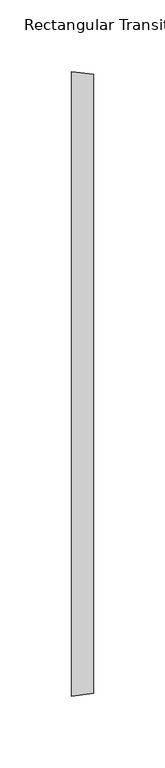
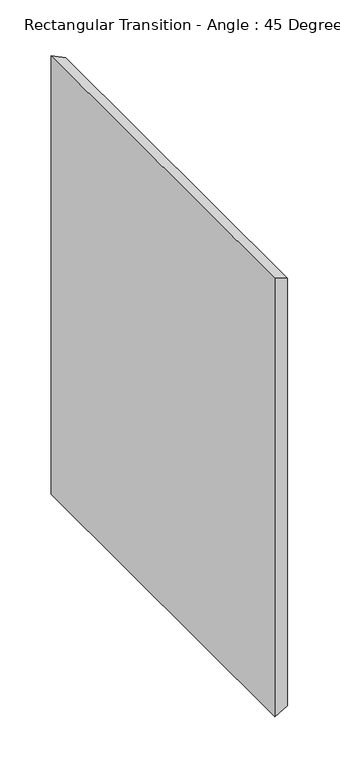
"""IFC4 building model written with IfcOpenShell, lengths in millimetres: duct fitting geometry, Rectangular Transition - Angle : 45 Degree."""

from ifc_helpers import new_model, si_unit, origin, place, context, project, spatial, faceted_brep, source, transform, mapped, element, save


def rectangular_transition_angle_45_degree_bff0837c(model_context):
    return source(origin(), model_context, "Body", "Brep", [
        faceted_brep([(15.3302561, -215.9, 254.0), (15.3302561, -215.9, -254.0), (15.3302561, 215.9, -254.0), (15.3302561, 215.9, 254.0), (0.0, -217.7851563, 260.35), (0.0, 217.7851562, 260.35), (0.0, 217.7851562, -260.35), (0.0, -217.7851563, -260.35)], [[[0, 1, 2, 3]], [[4, 5, 6, 7]], [[4, 7, 1, 0]], [[7, 6, 2, 1]], [[6, 5, 3, 2]], [[5, 4, 0, 3]]]),
    ])


if __name__ == "__main__":
    model = new_model("IFC4")
    model_context = context("Model", 3, world=origin())
    ifc_project = project(units=[si_unit("LENGTHUNIT", "METRE", prefix="MILLI")], contexts=[model_context])
    site = spatial("IfcSite", under=ifc_project)
    building = spatial("IfcBuilding", under=site)
    placement = place(None, origin())
    rectangular_transition_angle_45_degree_shape = rectangular_transition_angle_45_degree_bff0837c(model_context)
    element("IfcDuctFitting", 1, ObjectType="Rectangular Transition - Angle : 45 Degree", at=placement, inside=building, context=model_context, shape_type="MappedRepresentation", body=[
        mapped(rectangular_transition_angle_45_degree_shape, transform((0.0, 0.0, 0.0), x_axis=(1.0, 0.0, 0.0), y_axis=(0.0, 1.0, 0.0), z_axis=(0.0, 0.0, 1.0))),
    ])
    save(model, "model.ifc")
